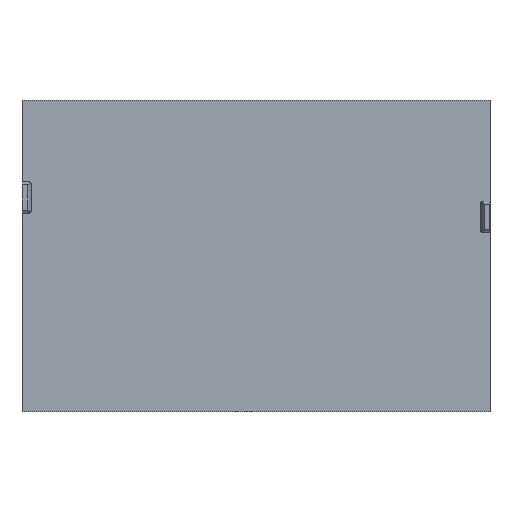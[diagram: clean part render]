
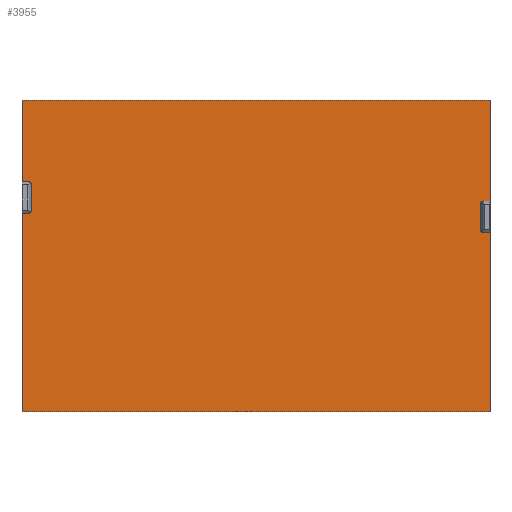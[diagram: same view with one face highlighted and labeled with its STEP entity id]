
A CAD part, front view. The second image highlights one B-rep face of the part: STEP entity #3955.
In plain terms, the highlighted planar face has unit normal (0, -1, 0).
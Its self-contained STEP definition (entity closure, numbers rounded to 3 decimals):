
#20 = VERTEX_POINT ( 'NONE', #1421 ) ;
#86 = VECTOR ( 'NONE', #1906, 1000. ) ;
#93 = VECTOR ( 'NONE', #4688, 1000. ) ;
#111 = CARTESIAN_POINT ( 'NONE',  ( -149.875, 0., 99.875 ) ) ;
#167 = VERTEX_POINT ( 'NONE', #1830 ) ;
#174 = EDGE_CURVE ( 'NONE', #20, #179, #1316, .T. ) ;
#179 = VERTEX_POINT ( 'NONE', #1923 ) ;
#233 = VERTEX_POINT ( 'NONE', #2004 ) ;
#247 = CARTESIAN_POINT ( 'NONE',  ( 149.875, 0., -99.875 ) ) ;
#251 = ORIENTED_EDGE ( 'NONE', *, *, #2647, .F. ) ;
#256 = CARTESIAN_POINT ( 'NONE',  ( 149.875, 0., 99.875 ) ) ;
#304 = DIRECTION ( 'NONE',  ( 1., 0., 0. ) ) ;
#325 = ORIENTED_EDGE ( 'NONE', *, *, #2347, .F. ) ;
#350 = VERTEX_POINT ( 'NONE', #2118 ) ;
#361 = LINE ( 'NONE', #2515, #1832 ) ;
#446 = VERTEX_POINT ( 'NONE', #4442 ) ;
#493 = ORIENTED_EDGE ( 'NONE', *, *, #2982, .F. ) ;
#585 = VERTEX_POINT ( 'NONE', #3129 ) ;
#622 = LINE ( 'NONE', #3935, #1147 ) ;
#623 = EDGE_CURVE ( 'NONE', #645, #5106, #622, .T. ) ;
#645 = VERTEX_POINT ( 'NONE', #4622 ) ;
#676 = VECTOR ( 'NONE', #2077, 1000. ) ;
#793 = VECTOR ( 'NONE', #1567, 1000. ) ;
#928 = VECTOR ( 'NONE', #5839, 1000. ) ;
#929 = VECTOR ( 'NONE', #1597, 1000. ) ;
#986 = CARTESIAN_POINT ( 'NONE',  ( -145.5, 0., 27.5 ) ) ;
#1147 = VECTOR ( 'NONE', #3905, 1000. ) ;
#1245 = VECTOR ( 'NONE', #304, 1000. ) ;
#1261 = LINE ( 'NONE', #5789, #928 ) ;
#1265 = ORIENTED_EDGE ( 'NONE', *, *, #623, .F. ) ;
#1316 = LINE ( 'NONE', #1885, #86 ) ;
#1421 = CARTESIAN_POINT ( 'NONE',  ( 144., 0., 33.5 ) ) ;
#1427 = VERTEX_POINT ( 'NONE', #3980 ) ;
#1448 = CARTESIAN_POINT ( 'NONE',  ( 0., 0., 47.5 ) ) ;
#1453 = LINE ( 'NONE', #5745, #929 ) ;
#1503 = CARTESIAN_POINT ( 'NONE',  ( 149.875, 0., 99.875 ) ) ;
#1567 = DIRECTION ( 'NONE',  ( 0., 0., -1. ) ) ;
#1597 = DIRECTION ( 'NONE',  ( 0., 0., 1. ) ) ;
#1607 = VERTEX_POINT ( 'NONE', #986 ) ;
#1624 = VERTEX_POINT ( 'NONE', #5094 ) ;
#1830 = CARTESIAN_POINT ( 'NONE',  ( -145.5, 0., 47.5 ) ) ;
#1832 = VECTOR ( 'NONE', #2453, 1000. ) ;
#1884 = ORIENTED_EDGE ( 'NONE', *, *, #2290, .F. ) ;
#1885 = CARTESIAN_POINT ( 'NONE',  ( 144., 0., 0. ) ) ;
#1906 = DIRECTION ( 'NONE',  ( 0., 0., -1. ) ) ;
#1911 = VERTEX_POINT ( 'NONE', #1958 ) ;
#1918 = EDGE_CURVE ( 'NONE', #585, #233, #1453, .T. ) ;
#1920 = CIRCLE ( 'NONE', #3826, 1.5 ) ;
#1923 = CARTESIAN_POINT ( 'NONE',  ( 144., 0., 16.5 ) ) ;
#1958 = CARTESIAN_POINT ( 'NONE',  ( -149.875, 0., -99.875 ) ) ;
#1967 = EDGE_CURVE ( 'NONE', #167, #446, #4452, .T. ) ;
#2004 = CARTESIAN_POINT ( 'NONE',  ( -144., 0., 46. ) ) ;
#2077 = DIRECTION ( 'NONE',  ( 1., 0., 0. ) ) ;
#2118 = CARTESIAN_POINT ( 'NONE',  ( 145.5, 0., 15. ) ) ;
#2141 = CARTESIAN_POINT ( 'NONE',  ( 0., 0., 15. ) ) ;
#2290 = EDGE_CURVE ( 'NONE', #1427, #1607, #361, .T. ) ;
#2347 = EDGE_CURVE ( 'NONE', #179, #350, #1920, .T. ) ;
#2367 = ORIENTED_EDGE ( 'NONE', *, *, #174, .F. ) ;
#2453 = DIRECTION ( 'NONE',  ( 1., 0., 0. ) ) ;
#2503 = EDGE_LOOP ( 'NONE', ( #3438, #5593, #3178, #325, #2367, #251, #1265, #5012, #5113, #493, #5682, #4246, #5585, #5605, #1884, #4932 ) ) ;
#2515 = CARTESIAN_POINT ( 'NONE',  ( 0., 0., 27.5 ) ) ;
#2630 = EDGE_CURVE ( 'NONE', #233, #167, #5127, .T. ) ;
#2632 = EDGE_CURVE ( 'NONE', #1607, #585, #5592, .T. ) ;
#2647 = EDGE_CURVE ( 'NONE', #5106, #20, #4330, .T. ) ;
#2671 = VERTEX_POINT ( 'NONE', #5621 ) ;
#2698 = LINE ( 'NONE', #3474, #93 ) ;
#2735 = EDGE_CURVE ( 'NONE', #2843, #1911, #2698, .T. ) ;
#2839 = EDGE_CURVE ( 'NONE', #5528, #2671, #4422, .T. ) ;
#2843 = VERTEX_POINT ( 'NONE', #247 ) ;
#2899 = VECTOR ( 'NONE', #3595, 1000. ) ;
#2964 = EDGE_CURVE ( 'NONE', #1911, #1427, #4726, .T. ) ;
#2982 = EDGE_CURVE ( 'NONE', #446, #5528, #5276, .T. ) ;
#3005 = EDGE_CURVE ( 'NONE', #350, #1624, #3948, .T. ) ;
#3011 = EDGE_CURVE ( 'NONE', #2671, #645, #3760, .T. ) ;
#3066 = EDGE_CURVE ( 'NONE', #1624, #2843, #1261, .T. ) ;
#3129 = CARTESIAN_POINT ( 'NONE',  ( -144., 0., 29. ) ) ;
#3167 = CARTESIAN_POINT ( 'NONE',  ( -149.875, 0., 99.875 ) ) ;
#3178 = ORIENTED_EDGE ( 'NONE', *, *, #3005, .F. ) ;
#3261 = DIRECTION ( 'NONE',  ( 0., 0., 1. ) ) ;
#3266 = DIRECTION ( 'NONE',  ( 0., 0., 1. ) ) ;
#3422 = DIRECTION ( 'NONE',  ( 0., -1., 0. ) ) ;
#3438 = ORIENTED_EDGE ( 'NONE', *, *, #2735, .F. ) ;
#3474 = CARTESIAN_POINT ( 'NONE',  ( 149.875, 0., -99.875 ) ) ;
#3482 = CARTESIAN_POINT ( 'NONE',  ( 145.5, 0., 16.5 ) ) ;
#3595 = DIRECTION ( 'NONE',  ( -1., 0., 0. ) ) ;
#3638 = DIRECTION ( 'NONE',  ( 0., 0., 1. ) ) ;
#3760 = LINE ( 'NONE', #1503, #793 ) ;
#3802 = CARTESIAN_POINT ( 'NONE',  ( -149.875, 0., 99.875 ) ) ;
#3826 = AXIS2_PLACEMENT_3D ( 'NONE', #3482, #3422, #3261 ) ;
#3905 = DIRECTION ( 'NONE',  ( -1., 0., 0. ) ) ;
#3928 = AXIS2_PLACEMENT_3D ( 'NONE', #5402, #5405, #5411 ) ;
#3930 = AXIS2_PLACEMENT_3D ( 'NONE', #5428, #5442, #5445 ) ;
#3935 = CARTESIAN_POINT ( 'NONE',  ( 0., 0., 35. ) ) ;
#3944 = AXIS2_PLACEMENT_3D ( 'NONE', #5527, #5529, #5534 ) ;
#3948 = LINE ( 'NONE', #2141, #676 ) ;
#3955 = ADVANCED_FACE ( 'NONE', ( #5562 ), #5474, .F. ) ;
#3980 = CARTESIAN_POINT ( 'NONE',  ( -149.875, 0., 27.5 ) ) ;
#4246 = ORIENTED_EDGE ( 'NONE', *, *, #2630, .F. ) ;
#4330 = CIRCLE ( 'NONE', #3944, 1.5 ) ;
#4422 = LINE ( 'NONE', #256, #1245 ) ;
#4428 = CARTESIAN_POINT ( 'NONE',  ( 145.5, 0., 35. ) ) ;
#4442 = CARTESIAN_POINT ( 'NONE',  ( -149.875, 0., 47.5 ) ) ;
#4452 = LINE ( 'NONE', #1448, #2899 ) ;
#4622 = CARTESIAN_POINT ( 'NONE',  ( 149.875, 0., 35. ) ) ;
#4639 = AXIS2_PLACEMENT_3D ( 'NONE', #5656, #5713, #5458 ) ;
#4688 = DIRECTION ( 'NONE',  ( -1., 0., 0. ) ) ;
#4726 = LINE ( 'NONE', #3802, #5249 ) ;
#4808 = VECTOR ( 'NONE', #3266, 1000. ) ;
#4932 = ORIENTED_EDGE ( 'NONE', *, *, #2964, .F. ) ;
#5012 = ORIENTED_EDGE ( 'NONE', *, *, #3011, .F. ) ;
#5094 = CARTESIAN_POINT ( 'NONE',  ( 149.875, 0., 15. ) ) ;
#5106 = VERTEX_POINT ( 'NONE', #4428 ) ;
#5113 = ORIENTED_EDGE ( 'NONE', *, *, #2839, .F. ) ;
#5127 = CIRCLE ( 'NONE', #3928, 1.5 ) ;
#5249 = VECTOR ( 'NONE', #3638, 1000. ) ;
#5276 = LINE ( 'NONE', #3167, #4808 ) ;
#5402 = CARTESIAN_POINT ( 'NONE',  ( -145.5, 0., 46. ) ) ;
#5405 = DIRECTION ( 'NONE',  ( 0., -1., 0. ) ) ;
#5411 = DIRECTION ( 'NONE',  ( 0., 0., -1. ) ) ;
#5428 = CARTESIAN_POINT ( 'NONE',  ( -145.5, 0., 29. ) ) ;
#5442 = DIRECTION ( 'NONE',  ( 0., -1., 0. ) ) ;
#5445 = DIRECTION ( 'NONE',  ( 0., 0., 1. ) ) ;
#5458 = DIRECTION ( 'NONE',  ( 0., 0., 1. ) ) ;
#5474 = PLANE ( 'NONE',  #4639 ) ;
#5527 = CARTESIAN_POINT ( 'NONE',  ( 145.5, 0., 33.5 ) ) ;
#5528 = VERTEX_POINT ( 'NONE', #111 ) ;
#5529 = DIRECTION ( 'NONE',  ( 0., -1., 0. ) ) ;
#5534 = DIRECTION ( 'NONE',  ( 0., 0., -1. ) ) ;
#5562 = FACE_OUTER_BOUND ( 'NONE', #2503, .T. ) ;
#5585 = ORIENTED_EDGE ( 'NONE', *, *, #1918, .F. ) ;
#5592 = CIRCLE ( 'NONE', #3930, 1.5 ) ;
#5593 = ORIENTED_EDGE ( 'NONE', *, *, #3066, .F. ) ;
#5605 = ORIENTED_EDGE ( 'NONE', *, *, #2632, .F. ) ;
#5621 = CARTESIAN_POINT ( 'NONE',  ( 149.875, 0., 99.875 ) ) ;
#5656 = CARTESIAN_POINT ( 'NONE',  ( 0., 0., 0. ) ) ;
#5682 = ORIENTED_EDGE ( 'NONE', *, *, #1967, .F. ) ;
#5713 = DIRECTION ( 'NONE',  ( 0., 1., 0. ) ) ;
#5745 = CARTESIAN_POINT ( 'NONE',  ( -144., 0., 0. ) ) ;
#5789 = CARTESIAN_POINT ( 'NONE',  ( 149.875, 0., 99.875 ) ) ;
#5839 = DIRECTION ( 'NONE',  ( 0., 0., -1. ) ) ;
